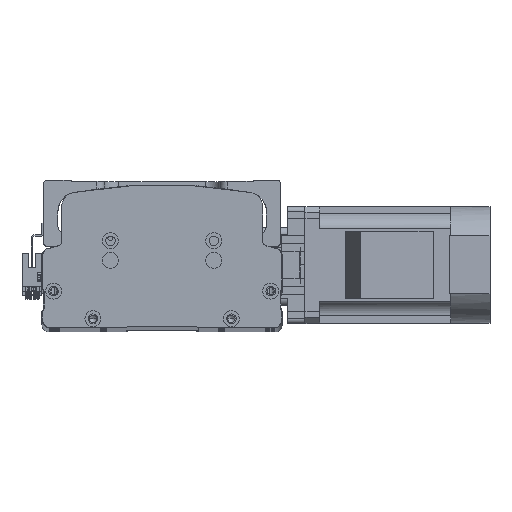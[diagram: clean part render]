
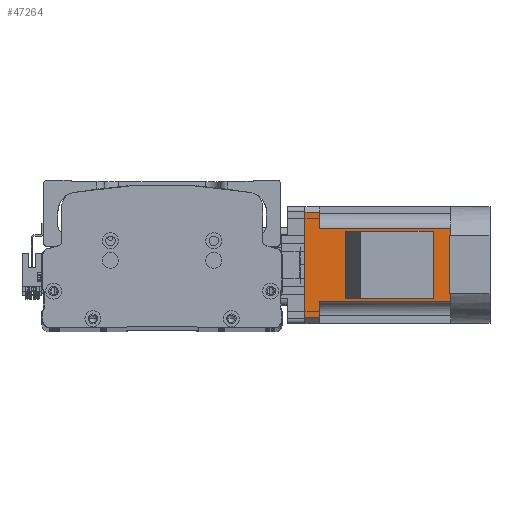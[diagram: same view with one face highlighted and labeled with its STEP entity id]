
A CAD part, top view. The second image highlights one B-rep face of the part: STEP entity #47264.
In plain terms, the highlighted planar face has unit normal (0, 0.003, 1).
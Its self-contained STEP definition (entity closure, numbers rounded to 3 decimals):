
#150 = ORIENTED_EDGE ( 'NONE', *, *, #1751, .T. ) ;
#306 = DIRECTION ( 'NONE',  ( 1., 0., 0. ) ) ;
#1005 = VECTOR ( 'NONE', #306, 1000. ) ;
#1751 = EDGE_CURVE ( 'NONE', #39403, #33972, #45500, .T. ) ;
#2257 = ORIENTED_EDGE ( 'NONE', *, *, #45791, .F. ) ;
#2487 = DIRECTION ( 'NONE',  ( 0., -1., 0. ) ) ;
#3128 = DIRECTION ( 'NONE',  ( 0., -1., 0. ) ) ;
#3287 = ORIENTED_EDGE ( 'NONE', *, *, #5707, .T. ) ;
#4068 = EDGE_CURVE ( 'NONE', #52645, #42780, #7422, .T. ) ;
#4315 = PLANE ( 'NONE',  #35234 ) ;
#4321 = CARTESIAN_POINT ( 'NONE',  ( -40., 12., 40. ) ) ;
#4435 = EDGE_LOOP ( 'NONE', ( #31779, #38675, #3287, #46572 ) ) ;
#4488 = DIRECTION ( 'NONE',  ( 1., 0., 0. ) ) ;
#5707 = EDGE_CURVE ( 'NONE', #23700, #45367, #35270, .T. ) ;
#6100 = EDGE_CURVE ( 'NONE', #21750, #17181, #51832, .T. ) ;
#6154 = LINE ( 'NONE', #11674, #17011 ) ;
#7422 = LINE ( 'NONE', #47903, #16995 ) ;
#7501 = VERTEX_POINT ( 'NONE', #32431 ) ;
#8417 = DIRECTION ( 'NONE',  ( -1., 0., 0. ) ) ;
#8944 = ORIENTED_EDGE ( 'NONE', *, *, #47327, .T. ) ;
#10991 = VECTOR ( 'NONE', #44314, 1000. ) ;
#11674 = CARTESIAN_POINT ( 'NONE',  ( -40., 0., 40. ) ) ;
#11826 = LINE ( 'NONE', #41006, #1005 ) ;
#11843 = DIRECTION ( 'NONE',  ( 1., 0., 0. ) ) ;
#11861 = LINE ( 'NONE', #41743, #52756 ) ;
#12263 = LINE ( 'NONE', #52516, #10991 ) ;
#12661 = EDGE_CURVE ( 'NONE', #34338, #45367, #51995, .T. ) ;
#12888 = VECTOR ( 'NONE', #26258, 1000. ) ;
#13241 = CARTESIAN_POINT ( 'NONE',  ( 36., 90., 40. ) ) ;
#13262 = LINE ( 'NONE', #37316, #22853 ) ;
#13331 = VECTOR ( 'NONE', #44897, 1000. ) ;
#14956 = CARTESIAN_POINT ( 'NONE',  ( -23., -27., 40. ) ) ;
#15294 = CARTESIAN_POINT ( 'NONE',  ( 25., -27., 40. ) ) ;
#15342 = CARTESIAN_POINT ( 'NONE',  ( -23., 12., 40. ) ) ;
#16314 = CARTESIAN_POINT ( 'NONE',  ( -40., 72., 40. ) ) ;
#16995 = VECTOR ( 'NONE', #3128, 1000. ) ;
#17011 = VECTOR ( 'NONE', #11843, 1000. ) ;
#17181 = VERTEX_POINT ( 'NONE', #38852 ) ;
#17255 = ORIENTED_EDGE ( 'NONE', *, *, #19357, .T. ) ;
#18333 = CARTESIAN_POINT ( 'NONE',  ( 23., 12., 40. ) ) ;
#19357 = EDGE_CURVE ( 'NONE', #36224, #21495, #12263, .T. ) ;
#20708 = CARTESIAN_POINT ( 'NONE',  ( -40., -27., 40. ) ) ;
#21495 = VERTEX_POINT ( 'NONE', #50442 ) ;
#21750 = VERTEX_POINT ( 'NONE', #36151 ) ;
#21752 = EDGE_CURVE ( 'NONE', #7501, #21750, #6154, .T. ) ;
#22557 = VECTOR ( 'NONE', #50807, 1000. ) ;
#22633 = CARTESIAN_POINT ( 'NONE',  ( 23., -27., 40. ) ) ;
#22853 = VECTOR ( 'NONE', #45523, 1000. ) ;
#23492 = VECTOR ( 'NONE', #2487, 1000. ) ;
#23700 = VERTEX_POINT ( 'NONE', #18333 ) ;
#23876 = LINE ( 'NONE', #46703, #22557 ) ;
#24100 = EDGE_CURVE ( 'NONE', #17181, #36224, #11861, .T. ) ;
#24250 = LINE ( 'NONE', #16314, #13331 ) ;
#24488 = VECTOR ( 'NONE', #8417, 1000. ) ;
#26194 = ORIENTED_EDGE ( 'NONE', *, *, #4068, .T. ) ;
#26258 = DIRECTION ( 'NONE',  ( 0., -1., 0. ) ) ;
#27940 = CARTESIAN_POINT ( 'NONE',  ( -36., 100., 40. ) ) ;
#28017 = CARTESIAN_POINT ( 'NONE',  ( -25., 90., 40. ) ) ;
#28972 = DIRECTION ( 'NONE',  ( 0., 0., 1. ) ) ;
#29946 = DIRECTION ( 'NONE',  ( 1., 0., 0. ) ) ;
#31385 = ORIENTED_EDGE ( 'NONE', *, *, #44160, .T. ) ;
#31779 = ORIENTED_EDGE ( 'NONE', *, *, #51669, .T. ) ;
#32431 = CARTESIAN_POINT ( 'NONE',  ( 0., 0., 40. ) ) ;
#33972 = VERTEX_POINT ( 'NONE', #45965 ) ;
#34066 = CARTESIAN_POINT ( 'NONE',  ( 23., 72., 40. ) ) ;
#34319 = LINE ( 'NONE', #22633, #23492 ) ;
#34338 = VERTEX_POINT ( 'NONE', #44149 ) ;
#34379 = EDGE_LOOP ( 'NONE', ( #51442, #17255, #2257, #150, #8944, #26194, #31385, #36550, #45181 ) ) ;
#34968 = FACE_BOUND ( 'NONE', #4435, .T. ) ;
#35234 = AXIS2_PLACEMENT_3D ( 'NONE', #20708, #28972, #4488 ) ;
#35270 = LINE ( 'NONE', #4321, #24488 ) ;
#36151 = CARTESIAN_POINT ( 'NONE',  ( 25., 0., 40. ) ) ;
#36224 = VERTEX_POINT ( 'NONE', #13241 ) ;
#36284 = FACE_OUTER_BOUND ( 'NONE', #34379, .T. ) ;
#36550 = ORIENTED_EDGE ( 'NONE', *, *, #21752, .T. ) ;
#37316 = CARTESIAN_POINT ( 'NONE',  ( -40., 90., 40. ) ) ;
#38675 = ORIENTED_EDGE ( 'NONE', *, *, #52463, .T. ) ;
#38852 = CARTESIAN_POINT ( 'NONE',  ( 25., 90., 40. ) ) ;
#39403 = VERTEX_POINT ( 'NONE', #27940 ) ;
#41006 = CARTESIAN_POINT ( 'NONE',  ( -40., 0., 40. ) ) ;
#41197 = VECTOR ( 'NONE', #47820, 1000. ) ;
#41743 = CARTESIAN_POINT ( 'NONE',  ( -40., 90., 40. ) ) ;
#42780 = VERTEX_POINT ( 'NONE', #50761 ) ;
#43879 = DIRECTION ( 'NONE',  ( 0., 1., 0. ) ) ;
#44149 = CARTESIAN_POINT ( 'NONE',  ( -23., 72., 40. ) ) ;
#44160 = EDGE_CURVE ( 'NONE', #42780, #7501, #11826, .T. ) ;
#44314 = DIRECTION ( 'NONE',  ( 0., 1., 0. ) ) ;
#44897 = DIRECTION ( 'NONE',  ( 1., 0., 0. ) ) ;
#45181 = ORIENTED_EDGE ( 'NONE', *, *, #6100, .T. ) ;
#45367 = VERTEX_POINT ( 'NONE', #15342 ) ;
#45500 = LINE ( 'NONE', #50671, #12888 ) ;
#45523 = DIRECTION ( 'NONE',  ( 1., 0., 0. ) ) ;
#45791 = EDGE_CURVE ( 'NONE', #39403, #21495, #23876, .T. ) ;
#45965 = CARTESIAN_POINT ( 'NONE',  ( -36., 90., 40. ) ) ;
#46572 = ORIENTED_EDGE ( 'NONE', *, *, #12661, .F. ) ;
#46703 = CARTESIAN_POINT ( 'NONE',  ( -40., 100., 40. ) ) ;
#47264 = ADVANCED_FACE ( 'NONE', ( #36284, #34968 ), #4315, .T. ) ;
#47327 = EDGE_CURVE ( 'NONE', #33972, #52645, #13262, .T. ) ;
#47820 = DIRECTION ( 'NONE',  ( 0., -1., 0. ) ) ;
#47903 = CARTESIAN_POINT ( 'NONE',  ( -25., -27., 40. ) ) ;
#50226 = VERTEX_POINT ( 'NONE', #34066 ) ;
#50442 = CARTESIAN_POINT ( 'NONE',  ( 36., 100., 40. ) ) ;
#50535 = VECTOR ( 'NONE', #43879, 1000. ) ;
#50671 = CARTESIAN_POINT ( 'NONE',  ( -36., -27., 40. ) ) ;
#50761 = CARTESIAN_POINT ( 'NONE',  ( -25., 0., 40. ) ) ;
#50807 = DIRECTION ( 'NONE',  ( 1., 0., 0. ) ) ;
#51442 = ORIENTED_EDGE ( 'NONE', *, *, #24100, .T. ) ;
#51669 = EDGE_CURVE ( 'NONE', #34338, #50226, #24250, .T. ) ;
#51832 = LINE ( 'NONE', #15294, #50535 ) ;
#51995 = LINE ( 'NONE', #14956, #41197 ) ;
#52463 = EDGE_CURVE ( 'NONE', #50226, #23700, #34319, .T. ) ;
#52516 = CARTESIAN_POINT ( 'NONE',  ( 36., -27., 40. ) ) ;
#52645 = VERTEX_POINT ( 'NONE', #28017 ) ;
#52756 = VECTOR ( 'NONE', #29946, 1000. ) ;
